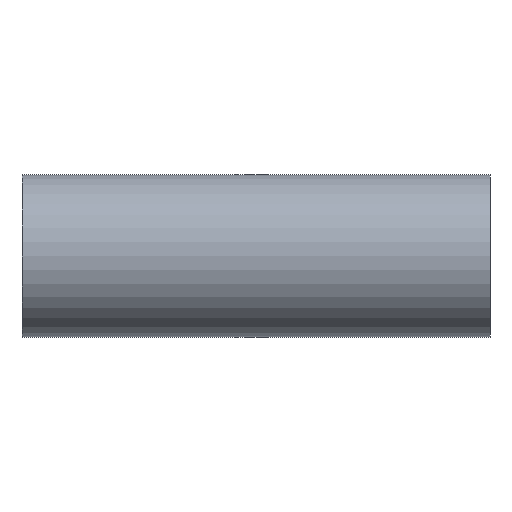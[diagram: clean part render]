
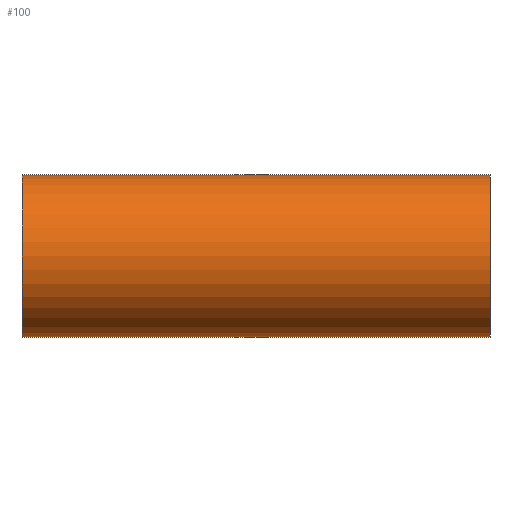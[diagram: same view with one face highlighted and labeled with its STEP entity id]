
A CAD part, front view. The second image highlights one B-rep face of the part: STEP entity #100.
In plain terms, the highlighted cylindrical face has radius 25.4 mm (diameter 50.8 mm), a partial arc.
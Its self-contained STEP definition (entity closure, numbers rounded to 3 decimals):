
#55 = EDGE_CURVE ( 'NONE', #168, #243, #271, .T. ) ;
#100 = ADVANCED_FACE ( 'NONE', ( #160 ), #570, .T. ) ;
#126 = VECTOR ( 'NONE', #295, 1000. ) ;
#160 = FACE_OUTER_BOUND ( 'NONE', #217, .T. ) ;
#168 = VERTEX_POINT ( 'NONE', #365 ) ;
#184 = CARTESIAN_POINT ( 'NONE',  ( 73., 0., 0. ) ) ;
#217 = EDGE_LOOP ( 'NONE', ( #671, #225, #528, #500 ) ) ;
#225 = ORIENTED_EDGE ( 'NONE', *, *, #698, .T. ) ;
#243 = VERTEX_POINT ( 'NONE', #355 ) ;
#271 = LINE ( 'NONE', #531, #126 ) ;
#284 = EDGE_CURVE ( 'NONE', #370, #243, #341, .T. ) ;
#295 = DIRECTION ( 'NONE',  ( 1., 0., 0. ) ) ;
#341 = CIRCLE ( 'NONE', #358, 25.4 ) ;
#355 = CARTESIAN_POINT ( 'NONE',  ( 73., 0., 25.4 ) ) ;
#358 = AXIS2_PLACEMENT_3D ( 'NONE', #184, #747, #734 ) ;
#365 = CARTESIAN_POINT ( 'NONE',  ( -73., 0., 25.4 ) ) ;
#370 = VERTEX_POINT ( 'NONE', #641 ) ;
#400 = LINE ( 'NONE', #412, #617 ) ;
#412 = CARTESIAN_POINT ( 'NONE',  ( -73., 0., -25.4 ) ) ;
#478 = EDGE_CURVE ( 'NONE', #668, #370, #400, .T. ) ;
#500 = ORIENTED_EDGE ( 'NONE', *, *, #284, .T. ) ;
#501 = DIRECTION ( 'NONE',  ( 0., 0., -1. ) ) ;
#508 = DIRECTION ( 'NONE',  ( 1., 0., 0. ) ) ;
#511 = CARTESIAN_POINT ( 'NONE',  ( -73., 0., 0. ) ) ;
#528 = ORIENTED_EDGE ( 'NONE', *, *, #478, .T. ) ;
#531 = CARTESIAN_POINT ( 'NONE',  ( -73., 0., 25.4 ) ) ;
#570 = CYLINDRICAL_SURFACE ( 'NONE', #684, 25.4 ) ;
#588 = DIRECTION ( 'NONE',  ( 1., 0., 0. ) ) ;
#589 = CARTESIAN_POINT ( 'NONE',  ( -73., 0., 0. ) ) ;
#617 = VECTOR ( 'NONE', #588, 1000. ) ;
#640 = CIRCLE ( 'NONE', #650, 25.4 ) ;
#641 = CARTESIAN_POINT ( 'NONE',  ( 73., 0., -25.4 ) ) ;
#646 = CARTESIAN_POINT ( 'NONE',  ( -73., 0., -25.4 ) ) ;
#650 = AXIS2_PLACEMENT_3D ( 'NONE', #511, #508, #501 ) ;
#654 = DIRECTION ( 'NONE',  ( 1., 0., 0. ) ) ;
#668 = VERTEX_POINT ( 'NONE', #646 ) ;
#671 = ORIENTED_EDGE ( 'NONE', *, *, #55, .F. ) ;
#684 = AXIS2_PLACEMENT_3D ( 'NONE', #589, #654, #759 ) ;
#698 = EDGE_CURVE ( 'NONE', #168, #668, #640, .T. ) ;
#734 = DIRECTION ( 'NONE',  ( 0., 0., -1. ) ) ;
#747 = DIRECTION ( 'NONE',  ( -1., 0., 0. ) ) ;
#759 = DIRECTION ( 'NONE',  ( 0., 0., -1. ) ) ;
